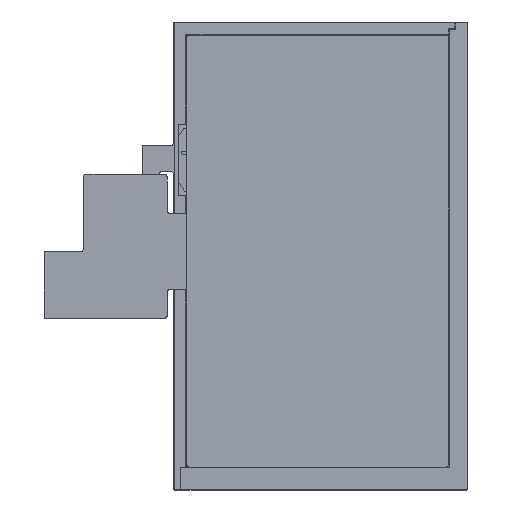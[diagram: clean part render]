
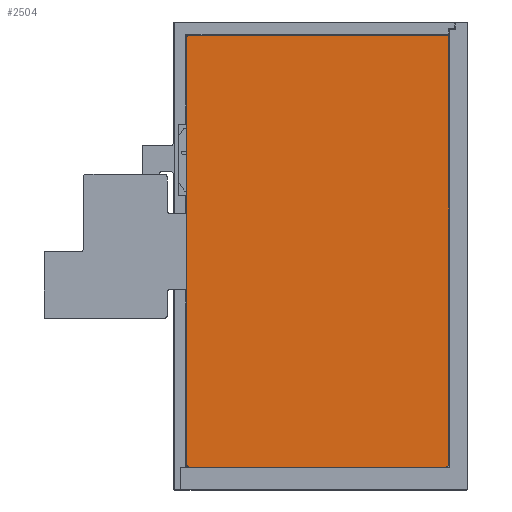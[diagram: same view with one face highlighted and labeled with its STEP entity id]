
A CAD part, top view. The second image highlights one B-rep face of the part: STEP entity #2504.
In plain terms, the highlighted planar face has unit normal (0, 0, 1).
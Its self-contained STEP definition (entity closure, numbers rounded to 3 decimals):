
#891=CARTESIAN_POINT('',(46.825,-79.633,3.5));
#892=DIRECTION('',(0.,0.,-1.));
#893=DIRECTION('',(1.,0.,0.));
#894=AXIS2_PLACEMENT_3D('',#891,#892,#893);
#896=DIRECTION('',(-1.,0.,0.));
#897=VECTOR('',#896,98.);
#898=CARTESIAN_POINT('',(46.825,-80.633,3.5));
#899=LINE('',#898,#897);
#900=CARTESIAN_POINT('',(-51.175,-79.633,3.5));
#901=DIRECTION('',(0.,0.,-1.));
#902=DIRECTION('',(0.,-1.,0.));
#903=AXIS2_PLACEMENT_3D('',#900,#901,#902);
#905=DIRECTION('',(0.,1.,0.));
#906=VECTOR('',#905,163.);
#907=CARTESIAN_POINT('',(-52.175,-79.633,3.5));
#908=LINE('',#907,#906);
#909=CARTESIAN_POINT('',(-51.175,83.367,3.5));
#910=DIRECTION('',(0.,0.,-1.));
#911=DIRECTION('',(-1.,0.,0.));
#912=AXIS2_PLACEMENT_3D('',#909,#910,#911);
#914=DIRECTION('',(1.,0.,0.));
#915=VECTOR('',#914,98.);
#916=CARTESIAN_POINT('',(-51.175,84.367,3.5));
#917=LINE('',#916,#915);
#918=CARTESIAN_POINT('',(46.825,83.367,3.5));
#919=DIRECTION('',(0.,0.,-1.));
#920=DIRECTION('',(0.,1.,0.));
#921=AXIS2_PLACEMENT_3D('',#918,#919,#920);
#923=DIRECTION('',(0.,-1.,0.));
#924=VECTOR('',#923,163.);
#925=CARTESIAN_POINT('',(47.825,83.367,3.5));
#926=LINE('',#925,#924);
#1247=CARTESIAN_POINT('',(47.825,-79.633,3.5));
#1248=CARTESIAN_POINT('',(46.825,-80.633,3.5));
#1249=VERTEX_POINT('',#1247);
#1250=VERTEX_POINT('',#1248);
#1251=CARTESIAN_POINT('',(-51.175,-80.633,3.5));
#1252=VERTEX_POINT('',#1251);
#1253=CARTESIAN_POINT('',(-52.175,-79.633,3.5));
#1254=VERTEX_POINT('',#1253);
#1255=CARTESIAN_POINT('',(-52.175,83.367,3.5));
#1256=VERTEX_POINT('',#1255);
#1257=CARTESIAN_POINT('',(-51.175,84.367,3.5));
#1258=VERTEX_POINT('',#1257);
#1259=CARTESIAN_POINT('',(46.825,84.367,3.5));
#1260=VERTEX_POINT('',#1259);
#1261=CARTESIAN_POINT('',(47.825,83.367,3.5));
#1262=VERTEX_POINT('',#1261);
#2489=CARTESIAN_POINT('',(2223.105,-4911.848,3.5));
#2490=DIRECTION('',(0.,0.,-1.));
#2491=DIRECTION('',(0.,1.,0.));
#2492=AXIS2_PLACEMENT_3D('',#2489,#2490,#2491);
#2493=PLANE('',#2492);
#2494=ORIENTED_EDGE('',*,*,#2394,.T.);
#2495=ORIENTED_EDGE('',*,*,#2414,.T.);
#2496=ORIENTED_EDGE('',*,*,#2326,.T.);
#2497=ORIENTED_EDGE('',*,*,#2031,.T.);
#2498=ORIENTED_EDGE('',*,*,#2482,.T.);
#2499=ORIENTED_EDGE('',*,*,#2470,.T.);
#2500=ORIENTED_EDGE('',*,*,#2447,.T.);
#2501=ORIENTED_EDGE('',*,*,#2433,.T.);
#2502=EDGE_LOOP('',(#2494,#2495,#2496,#2497,#2498,#2499,#2500,#2501));
#2503=FACE_OUTER_BOUND('',#2502,.F.);
#895=CIRCLE('',#894,1.);
#904=CIRCLE('',#903,1.);
#913=CIRCLE('',#912,1.);
#922=CIRCLE('',#921,1.);
#2031=EDGE_CURVE('',#1254,#1256,#908,.T.);
#2326=EDGE_CURVE('',#1252,#1254,#904,.T.);
#2394=EDGE_CURVE('',#1249,#1250,#895,.T.);
#2414=EDGE_CURVE('',#1250,#1252,#899,.T.);
#2433=EDGE_CURVE('',#1262,#1249,#926,.T.);
#2447=EDGE_CURVE('',#1260,#1262,#922,.T.);
#2470=EDGE_CURVE('',#1258,#1260,#917,.T.);
#2482=EDGE_CURVE('',#1256,#1258,#913,.T.);
#2504=ADVANCED_FACE('',(#2503),#2493,.F.);
